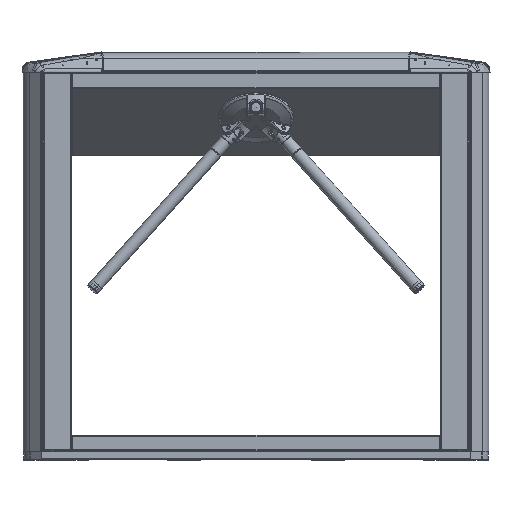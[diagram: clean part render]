
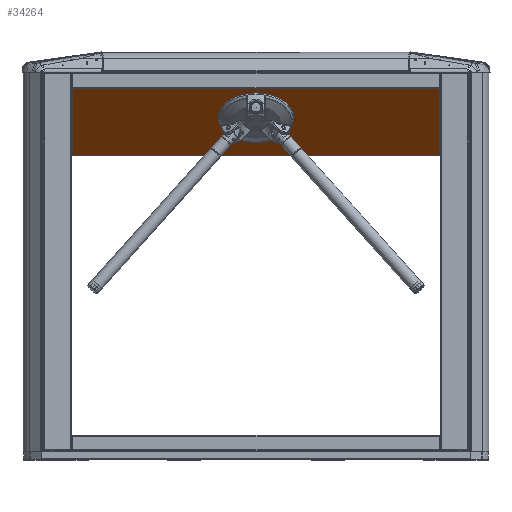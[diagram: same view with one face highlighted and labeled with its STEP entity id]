
A CAD part, front view. The second image highlights one B-rep face of the part: STEP entity #34264.
In plain terms, the highlighted planar face has unit normal (0, -0.643, -0.766) as drawn and (0.643, -0.766, 0) by its records, which use the part's own axes.
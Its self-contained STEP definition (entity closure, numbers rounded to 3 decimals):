
#3999=LINE('',#59319,#6232);
#4001=LINE('',#59323,#6234);
#4002=LINE('',#59325,#6235);
#4003=LINE('',#59329,#6236);
#4005=LINE('',#59333,#6238);
#4006=LINE('',#59335,#6239);
#4007=LINE('',#59339,#6240);
#4008=LINE('',#59343,#6241);
#4009=LINE('',#59347,#6242);
#4010=LINE('',#59351,#6243);
#4011=LINE('',#59353,#6244);
#4013=LINE('',#59357,#6246);
#4014=LINE('',#59361,#6247);
#4015=LINE('',#59363,#6248);
#4018=LINE('',#59372,#6251);
#4062=LINE('',#59488,#6295);
#6232=VECTOR('',#47859,1000.);
#6234=VECTOR('',#47863,1000.);
#6235=VECTOR('',#47866,1000.);
#6236=VECTOR('',#47871,1000.);
#6238=VECTOR('',#47875,1000.);
#6239=VECTOR('',#47878,1000.);
#6240=VECTOR('',#47885,1000.);
#6241=VECTOR('',#47892,1000.);
#6242=VECTOR('',#47899,1000.);
#6243=VECTOR('',#47906,1000.);
#6244=VECTOR('',#47909,1000.);
#6246=VECTOR('',#47913,1000.);
#6247=VECTOR('',#47918,1000.);
#6248=VECTOR('',#47921,1000.);
#6251=VECTOR('',#47930,1000.);
#6295=VECTOR('',#48062,1000.);
#9801=ORIENTED_EDGE('',*,*,#19108,.F.);
#9802=ORIENTED_EDGE('',*,*,#19110,.T.);
#9803=ORIENTED_EDGE('',*,*,#19106,.T.);
#9804=ORIENTED_EDGE('',*,*,#19105,.T.);
#9805=ORIENTED_EDGE('',*,*,#19103,.T.);
#9806=ORIENTED_EDGE('',*,*,#19101,.T.);
#9807=ORIENTED_EDGE('',*,*,#19100,.T.);
#9808=ORIENTED_EDGE('',*,*,#19099,.T.);
#9809=ORIENTED_EDGE('',*,*,#19098,.T.);
#9810=ORIENTED_EDGE('',*,*,#19097,.T.);
#9811=ORIENTED_EDGE('',*,*,#19096,.T.);
#9812=ORIENTED_EDGE('',*,*,#19095,.F.);
#9813=ORIENTED_EDGE('',*,*,#19094,.F.);
#9814=ORIENTED_EDGE('',*,*,#19093,.F.);
#9815=ORIENTED_EDGE('',*,*,#19092,.F.);
#9816=ORIENTED_EDGE('',*,*,#19091,.F.);
#9817=ORIENTED_EDGE('',*,*,#19089,.F.);
#9818=ORIENTED_EDGE('',*,*,#19087,.F.);
#9819=ORIENTED_EDGE('',*,*,#19086,.F.);
#9820=ORIENTED_EDGE('',*,*,#19084,.F.);
#9821=ORIENTED_EDGE('',*,*,#19168,.F.);
#19084=EDGE_CURVE('',#23893,#23894,#3999,.F.);
#19086=EDGE_CURVE('',#23894,#23840,#4001,.T.);
#19087=EDGE_CURVE('',#23840,#23895,#4002,.F.);
#19089=EDGE_CURVE('',#23895,#23896,#4003,.T.);
#19091=EDGE_CURVE('',#23896,#23843,#4005,.F.);
#19092=EDGE_CURVE('',#23843,#23844,#4006,.T.);
#19093=EDGE_CURVE('',#23844,#23845,#26727,.F.);
#19094=EDGE_CURVE('',#23845,#23846,#4007,.T.);
#19095=EDGE_CURVE('',#23846,#23847,#26728,.F.);
#19096=EDGE_CURVE('',#23848,#23847,#4008,.T.);
#19097=EDGE_CURVE('',#23849,#23848,#26729,.F.);
#19098=EDGE_CURVE('',#23850,#23849,#4009,.T.);
#19099=EDGE_CURVE('',#23851,#23850,#26730,.F.);
#19100=EDGE_CURVE('',#23852,#23851,#4010,.T.);
#19101=EDGE_CURVE('',#23897,#23852,#4011,.F.);
#19103=EDGE_CURVE('',#23898,#23897,#4013,.T.);
#19105=EDGE_CURVE('',#23855,#23898,#4014,.F.);
#19106=EDGE_CURVE('',#23899,#23855,#4015,.T.);
#19108=EDGE_CURVE('',#23900,#23900,#26732,.T.);
#19110=EDGE_CURVE('',#23901,#23899,#4018,.F.);
#19168=EDGE_CURVE('',#23901,#23893,#4062,.T.);
#23840=VERTEX_POINT('',#58418);
#23843=VERTEX_POINT('',#58434);
#23844=VERTEX_POINT('',#58520);
#23845=VERTEX_POINT('',#58601);
#23846=VERTEX_POINT('',#58698);
#23847=VERTEX_POINT('',#58779);
#23848=VERTEX_POINT('',#58868);
#23849=VERTEX_POINT('',#58957);
#23850=VERTEX_POINT('',#59046);
#23851=VERTEX_POINT('',#59135);
#23852=VERTEX_POINT('',#59156);
#23855=VERTEX_POINT('',#59211);
#23893=VERTEX_POINT('',#59318);
#23894=VERTEX_POINT('',#59320);
#23895=VERTEX_POINT('',#59326);
#23896=VERTEX_POINT('',#59330);
#23897=VERTEX_POINT('',#59354);
#23898=VERTEX_POINT('',#59358);
#23899=VERTEX_POINT('',#59364);
#23900=VERTEX_POINT('',#59368);
#23901=VERTEX_POINT('',#59371);
#26727=CIRCLE('',#43283,2.5);
#26728=CIRCLE('',#43286,2.5);
#26729=CIRCLE('',#43289,2.5);
#26730=CIRCLE('',#43292,2.5);
#26732=CIRCLE('',#43300,94.);
#28295=EDGE_LOOP('',(#9801));
#28296=EDGE_LOOP('',(#9802,#9803,#9804,#9805,#9806,#9807,#9808,#9809,#9810,
#9811,#9812,#9813,#9814,#9815,#9816,#9817,#9818,#9819,#9820,#9821));
#30877=FACE_BOUND('',#28295,.T.);
#30878=FACE_BOUND('',#28296,.T.);
#33208=PLANE('',#43345);
#34264=ADVANCED_FACE('',(#30877,#30878),#33208,.T.);
#43283=AXIS2_PLACEMENT_3D('',#59337,#47881,#47882);
#43286=AXIS2_PLACEMENT_3D('',#59341,#47888,#47889);
#43289=AXIS2_PLACEMENT_3D('',#59345,#47895,#47896);
#43292=AXIS2_PLACEMENT_3D('',#59349,#47902,#47903);
#43300=AXIS2_PLACEMENT_3D('',#59367,#47925,#47926);
#43345=AXIS2_PLACEMENT_3D('',#59487,#48060,#48061);
#47859=DIRECTION('',(0.766,0.643,0.));
#47863=DIRECTION('',(0.,0.,1.));
#47866=DIRECTION('',(0.766,0.643,0.));
#47871=DIRECTION('',(0.,0.,-1.));
#47875=DIRECTION('',(0.766,0.643,0.));
#47878=DIRECTION('',(0.,0.,1.));
#47881=DIRECTION('',(-0.643,0.766,0.));
#47882=DIRECTION('',(0.766,0.643,0.));
#47885=DIRECTION('',(0.,0.,1.));
#47888=DIRECTION('',(-0.643,0.766,0.));
#47889=DIRECTION('',(0.766,0.643,0.));
#47892=DIRECTION('',(0.,0.,-1.));
#47895=DIRECTION('',(0.643,-0.766,0.));
#47896=DIRECTION('',(0.766,0.643,0.));
#47899=DIRECTION('',(0.,0.,-1.));
#47902=DIRECTION('',(0.643,-0.766,0.));
#47903=DIRECTION('',(0.766,0.643,0.));
#47906=DIRECTION('',(0.,0.,-1.));
#47909=DIRECTION('',(0.766,0.643,0.));
#47913=DIRECTION('',(0.,0.,1.));
#47918=DIRECTION('',(0.766,0.643,0.));
#47921=DIRECTION('',(0.,0.,-1.));
#47925=DIRECTION('',(0.643,-0.766,0.));
#47926=DIRECTION('',(0.766,0.643,0.));
#47930=DIRECTION('',(0.766,0.643,0.));
#48060=DIRECTION('',(0.643,-0.766,0.));
#48061=DIRECTION('',(0.766,0.643,0.));
#48062=DIRECTION('',(0.,0.,-1.));
#58418=CARTESIAN_POINT('',(-1.148,-40.963,-457.));
#58434=CARTESIAN_POINT('',(-199.072,-207.041,-458.3));
#58520=CARTESIAN_POINT('',(-199.072,-207.041,-395.986));
#58601=CARTESIAN_POINT('',(-199.072,-207.041,-394.014));
#58698=CARTESIAN_POINT('',(-199.072,-207.041,-220.986));
#58779=CARTESIAN_POINT('',(-199.072,-207.041,-219.014));
#58868=CARTESIAN_POINT('',(-199.072,-207.041,219.014));
#58957=CARTESIAN_POINT('',(-199.072,-207.041,220.986));
#59046=CARTESIAN_POINT('',(-199.072,-207.041,394.014));
#59135=CARTESIAN_POINT('',(-199.072,-207.041,395.986));
#59156=CARTESIAN_POINT('',(-199.072,-207.041,458.3));
#59211=CARTESIAN_POINT('',(-1.148,-40.963,457.));
#59318=CARTESIAN_POINT('',(-1.072,-40.899,-458.3));
#59319=CARTESIAN_POINT('',(0.,-40.,-458.3));
#59320=CARTESIAN_POINT('',(-1.148,-40.963,-458.3));
#59323=CARTESIAN_POINT('',(-1.148,-40.963,-460.));
#59325=CARTESIAN_POINT('',(-1.148,-40.963,-457.));
#59326=CARTESIAN_POINT('',(-198.995,-206.977,-457.));
#59329=CARTESIAN_POINT('',(-198.995,-206.977,-460.));
#59330=CARTESIAN_POINT('',(-198.995,-206.977,-458.3));
#59333=CARTESIAN_POINT('',(0.,-40.,-458.3));
#59335=CARTESIAN_POINT('',(-199.072,-207.041,-460.));
#59337=CARTESIAN_POINT('',(-200.831,-208.518,-395.));
#59339=CARTESIAN_POINT('',(-199.072,-207.041,-460.));
#59341=CARTESIAN_POINT('',(-200.831,-208.518,-220.));
#59343=CARTESIAN_POINT('',(-199.072,-207.041,460.));
#59345=CARTESIAN_POINT('',(-200.831,-208.518,220.));
#59347=CARTESIAN_POINT('',(-199.072,-207.041,460.));
#59349=CARTESIAN_POINT('',(-200.831,-208.518,395.));
#59351=CARTESIAN_POINT('',(-199.072,-207.041,460.));
#59353=CARTESIAN_POINT('',(0.,-40.,458.3));
#59354=CARTESIAN_POINT('',(-198.995,-206.977,458.3));
#59357=CARTESIAN_POINT('',(-198.995,-206.977,460.));
#59358=CARTESIAN_POINT('',(-198.995,-206.977,457.));
#59361=CARTESIAN_POINT('',(-1.148,-40.963,457.));
#59363=CARTESIAN_POINT('',(-1.148,-40.963,460.));
#59364=CARTESIAN_POINT('',(-1.148,-40.963,458.3));
#59367=CARTESIAN_POINT('',(-85.697,-111.908,0.));
#59368=CARTESIAN_POINT('',(-13.689,-51.486,0.));
#59371=CARTESIAN_POINT('',(-1.072,-40.899,458.3));
#59372=CARTESIAN_POINT('',(0.,-40.,458.3));
#59487=CARTESIAN_POINT('',(0.,-40.,460.));
#59488=CARTESIAN_POINT('',(-1.072,-40.899,460.));
